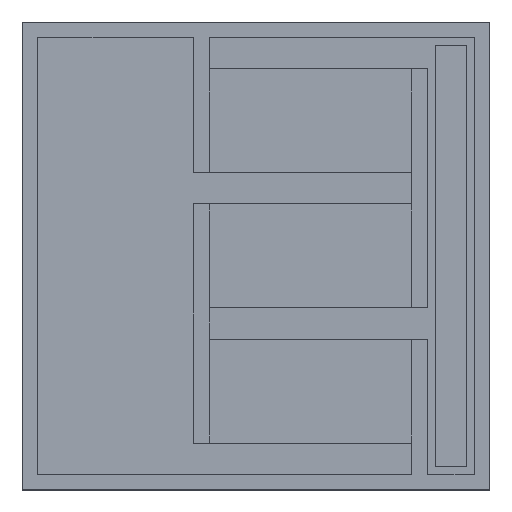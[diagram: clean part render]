
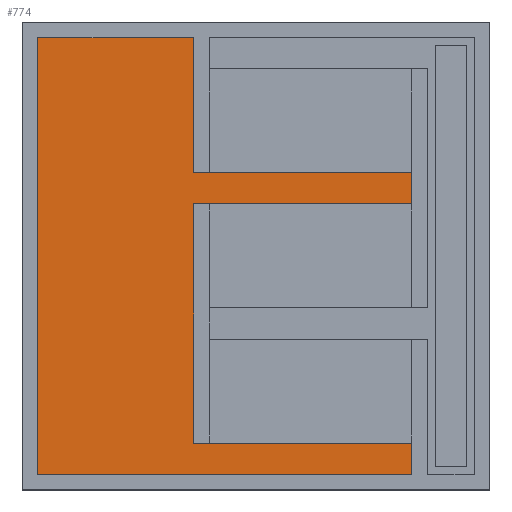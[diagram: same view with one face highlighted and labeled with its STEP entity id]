
A CAD part, top view. The second image highlights one B-rep face of the part: STEP entity #774.
In plain terms, the highlighted planar face has unit normal (0, 0, 1).
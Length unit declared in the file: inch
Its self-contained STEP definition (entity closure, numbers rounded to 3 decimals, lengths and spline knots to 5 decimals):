
#48=FACE_OUTER_BOUND('',#88,.T.);
#88=EDGE_LOOP('',(#642,#643,#644,#645,#646,#647,#648,#649,#650,#651));
#130=LINE('',#1098,#232);
#135=LINE('',#1108,#237);
#178=LINE('',#1192,#280);
#180=LINE('',#1195,#282);
#182=LINE('',#1199,#284);
#184=LINE('',#1203,#286);
#186=LINE('',#1206,#288);
#187=LINE('',#1209,#289);
#189=LINE('',#1213,#291);
#191=LINE('',#1216,#293);
#232=VECTOR('',#898,0.3937);
#237=VECTOR('',#905,0.3937);
#280=VECTOR('',#974,0.3937);
#282=VECTOR('',#978,0.3937);
#284=VECTOR('',#982,0.3937);
#286=VECTOR('',#986,0.3937);
#288=VECTOR('',#990,0.3937);
#289=VECTOR('',#993,0.3937);
#291=VECTOR('',#997,0.3937);
#293=VECTOR('',#1001,0.3937);
#328=VERTEX_POINT('',#1095);
#329=VERTEX_POINT('',#1097);
#332=VERTEX_POINT('',#1105);
#333=VERTEX_POINT('',#1107);
#360=VERTEX_POINT('',#1189);
#361=VERTEX_POINT('',#1191);
#362=VERTEX_POINT('',#1198);
#363=VERTEX_POINT('',#1202);
#364=VERTEX_POINT('',#1208);
#365=VERTEX_POINT('',#1212);
#402=EDGE_CURVE('',#329,#328,#130,.T.);
#407=EDGE_CURVE('',#333,#332,#135,.T.);
#450=EDGE_CURVE('',#361,#360,#178,.T.);
#452=EDGE_CURVE('',#328,#361,#180,.T.);
#454=EDGE_CURVE('',#362,#329,#182,.T.);
#456=EDGE_CURVE('',#363,#362,#184,.T.);
#458=EDGE_CURVE('',#332,#363,#186,.T.);
#459=EDGE_CURVE('',#364,#333,#187,.T.);
#461=EDGE_CURVE('',#365,#364,#189,.T.);
#463=EDGE_CURVE('',#360,#365,#191,.T.);
#642=ORIENTED_EDGE('',*,*,#463,.T.);
#643=ORIENTED_EDGE('',*,*,#461,.T.);
#644=ORIENTED_EDGE('',*,*,#459,.T.);
#645=ORIENTED_EDGE('',*,*,#407,.T.);
#646=ORIENTED_EDGE('',*,*,#458,.T.);
#647=ORIENTED_EDGE('',*,*,#456,.T.);
#648=ORIENTED_EDGE('',*,*,#454,.T.);
#649=ORIENTED_EDGE('',*,*,#402,.T.);
#650=ORIENTED_EDGE('',*,*,#452,.T.);
#651=ORIENTED_EDGE('',*,*,#450,.T.);
#704=PLANE('',#832);
#774=ADVANCED_FACE('',(#48),#704,.T.);
#832=AXIS2_PLACEMENT_3D('',#1217,#1002,#1003);
#898=DIRECTION('',(-1.,0.,0.));
#905=DIRECTION('',(-1.,0.,0.));
#974=DIRECTION('',(-1.,0.,0.));
#978=DIRECTION('',(0.,1.,0.));
#982=DIRECTION('',(0.,1.,0.));
#986=DIRECTION('',(1.,0.,0.));
#990=DIRECTION('',(0.,1.,0.));
#993=DIRECTION('',(0.,1.,0.));
#997=DIRECTION('',(1.,0.,0.));
#1001=DIRECTION('',(0.,-1.,0.));
#1002=DIRECTION('center_axis',(0.,0.,1.));
#1003=DIRECTION('ref_axis',(1.,0.,0.));
#1095=CARTESIAN_POINT('',(0.022,0.04067,0.0002));
#1097=CARTESIAN_POINT('',(0.05,0.04067,0.0002));
#1098=CARTESIAN_POINT('',(0.05,0.04067,0.0002));
#1105=CARTESIAN_POINT('',(0.022,0.006,0.0002));
#1107=CARTESIAN_POINT('',(0.05,0.006,0.0002));
#1108=CARTESIAN_POINT('',(0.05,0.006,0.0002));
#1189=CARTESIAN_POINT('',(0.002,0.058,0.0002));
#1191=CARTESIAN_POINT('',(0.022,0.058,0.0002));
#1192=CARTESIAN_POINT('',(0.022,0.058,0.0002));
#1195=CARTESIAN_POINT('',(0.022,0.04067,0.0002));
#1198=CARTESIAN_POINT('',(0.05,0.03667,0.0002));
#1199=CARTESIAN_POINT('',(0.05,0.03667,0.0002));
#1202=CARTESIAN_POINT('',(0.022,0.03667,0.0002));
#1203=CARTESIAN_POINT('',(0.022,0.03667,0.0002));
#1206=CARTESIAN_POINT('',(0.022,0.006,0.0002));
#1208=CARTESIAN_POINT('',(0.05,0.002,0.0002));
#1209=CARTESIAN_POINT('',(0.05,0.002,0.0002));
#1212=CARTESIAN_POINT('',(0.002,0.002,0.0002));
#1213=CARTESIAN_POINT('',(0.002,0.002,0.0002));
#1216=CARTESIAN_POINT('',(0.002,0.058,0.0002));
#1217=CARTESIAN_POINT('Origin',(0.02303,0.02632,0.0002));
